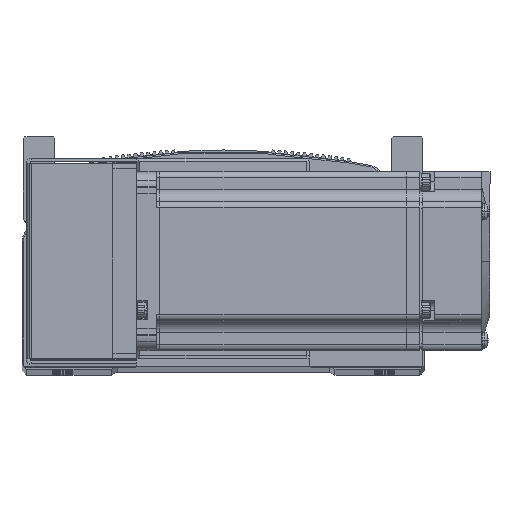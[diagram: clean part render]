
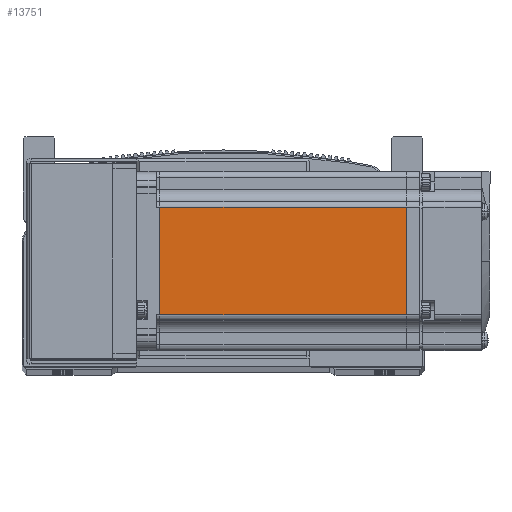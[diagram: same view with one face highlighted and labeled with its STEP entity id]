
A CAD part, top view. The second image highlights one B-rep face of the part: STEP entity #13751.
In plain terms, the highlighted planar face has unit normal (0, 0, 1) as drawn and (0, 0, -1) by its records, which use the part's own axes.
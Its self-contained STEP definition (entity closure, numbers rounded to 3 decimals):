
#373 = CARTESIAN_POINT ( 'NONE',  ( -7.75, 18., -30. ) ) ;
#380 = CARTESIAN_POINT ( 'NONE',  ( -7.75, -18., -30. ) ) ;
#399 = CARTESIAN_POINT ( 'NONE',  ( -90.45, -18., -30. ) ) ;
#407 = CARTESIAN_POINT ( 'NONE',  ( -90.45, 18., -30. ) ) ;
#13751 = ADVANCED_FACE ( 'NONE', ( #36690 ), #69871, .T. ) ;
#19680 = EDGE_CURVE ( 'NONE', #82371, #82382, #33844, .T. ) ;
#19681 = EDGE_CURVE ( 'NONE', #82364, #82371, #33851, .T. ) ;
#19718 = EDGE_CURVE ( 'NONE', #82382, #82355, #33892, .T. ) ;
#19725 = EDGE_CURVE ( 'NONE', #82355, #82364, #33907, .T. ) ;
#25457 = AXIS2_PLACEMENT_3D ( 'NONE', #70147, #69633, #69645 ) ;
#33844 = LINE ( 'NONE', #65793, #33845 ) ;
#33845 = VECTOR ( 'NONE', #65813, 1000. ) ;
#33851 = LINE ( 'NONE', #65791, #33852 ) ;
#33852 = VECTOR ( 'NONE', #65830, 1000. ) ;
#33892 = LINE ( 'NONE', #61506, #33896 ) ;
#33896 = VECTOR ( 'NONE', #61657, 1000. ) ;
#33907 = LINE ( 'NONE', #61779, #33910 ) ;
#33910 = VECTOR ( 'NONE', #61757, 1000. ) ;
#36690 = FACE_OUTER_BOUND ( 'NONE', #49568, .T. ) ;
#49568 = EDGE_LOOP ( 'NONE', ( #81124, #81175, #81091, #81187 ) ) ;
#61506 = CARTESIAN_POINT ( 'NONE',  ( -6.5, 18., -30. ) ) ;
#61657 = DIRECTION ( 'NONE',  ( 1., 0., 0. ) ) ;
#61757 = DIRECTION ( 'NONE',  ( 0., -1., 0. ) ) ;
#61779 = CARTESIAN_POINT ( 'NONE',  ( -7.75, 25., -30. ) ) ;
#65791 = CARTESIAN_POINT ( 'NONE',  ( -6.5, -18., -30. ) ) ;
#65793 = CARTESIAN_POINT ( 'NONE',  ( -90.45, 25., -30. ) ) ;
#65813 = DIRECTION ( 'NONE',  ( 0., 1., 0. ) ) ;
#65830 = DIRECTION ( 'NONE',  ( -1., 0., 0. ) ) ;
#69633 = DIRECTION ( 'NONE',  ( 0., 0., -1. ) ) ;
#69645 = DIRECTION ( 'NONE',  ( -1., 0., 0. ) ) ;
#69871 = PLANE ( 'NONE',  #25457 ) ;
#70147 = CARTESIAN_POINT ( 'NONE',  ( -6.5, 25., -30. ) ) ;
#81091 = ORIENTED_EDGE ( 'NONE', *, *, #19680, .T. ) ;
#81124 = ORIENTED_EDGE ( 'NONE', *, *, #19725, .T. ) ;
#81175 = ORIENTED_EDGE ( 'NONE', *, *, #19681, .T. ) ;
#81187 = ORIENTED_EDGE ( 'NONE', *, *, #19718, .T. ) ;
#82355 = VERTEX_POINT ( 'NONE', #373 ) ;
#82364 = VERTEX_POINT ( 'NONE', #380 ) ;
#82371 = VERTEX_POINT ( 'NONE', #399 ) ;
#82382 = VERTEX_POINT ( 'NONE', #407 ) ;
